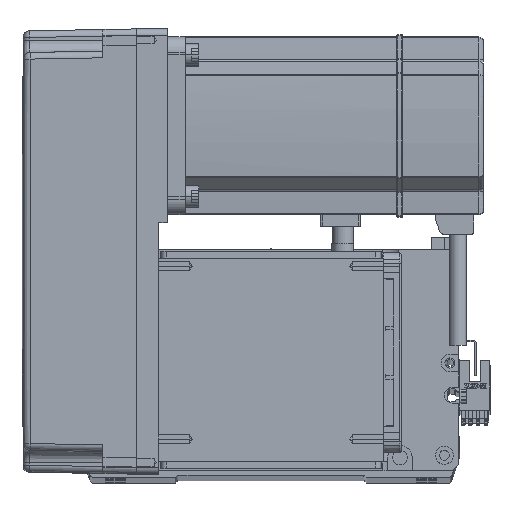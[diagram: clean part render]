
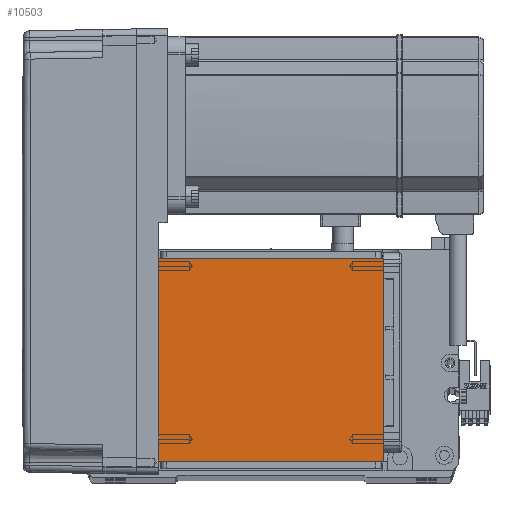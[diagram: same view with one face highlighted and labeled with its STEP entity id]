
A CAD part, top view. The second image highlights one B-rep face of the part: STEP entity #10503.
In plain terms, the highlighted planar face has unit normal (0, 0, 1).
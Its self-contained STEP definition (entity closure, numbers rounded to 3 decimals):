
#27 = DIRECTION ( 'NONE',  ( 0., 1., 0. ) ) ;
#4646 = FACE_OUTER_BOUND ( 'NONE', #28222, .T. ) ;
#5999 = ORIENTED_EDGE ( 'NONE', *, *, #51958, .F. ) ;
#6028 = CARTESIAN_POINT ( 'NONE',  ( -50.5, 122., 115. ) ) ;
#7351 = ORIENTED_EDGE ( 'NONE', *, *, #23117, .F. ) ;
#8576 = CARTESIAN_POINT ( 'NONE',  ( -70.004, 111.5, 115. ) ) ;
#8806 = VECTOR ( 'NONE', #36897, 1000. ) ;
#10238 = LINE ( 'NONE', #8576, #8806 ) ;
#10503 = ADVANCED_FACE ( 'NONE', ( #4646 ), #25130, .T. ) ;
#10510 = CARTESIAN_POINT ( 'NONE',  ( 0., 0., 115. ) ) ;
#11253 = LINE ( 'NONE', #6028, #40077 ) ;
#11603 = VERTEX_POINT ( 'NONE', #31627 ) ;
#20553 = VERTEX_POINT ( 'NONE', #44606 ) ;
#21846 = VERTEX_POINT ( 'NONE', #41031 ) ;
#21922 = VECTOR ( 'NONE', #27, 1000. ) ;
#23117 = EDGE_CURVE ( 'NONE', #11603, #25773, #10238, .T. ) ;
#23409 = AXIS2_PLACEMENT_3D ( 'NONE', #10510, #48102, #57320 ) ;
#25130 = PLANE ( 'NONE',  #23409 ) ;
#25768 = ORIENTED_EDGE ( 'NONE', *, *, #28449, .T. ) ;
#25773 = VERTEX_POINT ( 'NONE', #54524 ) ;
#26828 = ORIENTED_EDGE ( 'NONE', *, *, #51412, .T. ) ;
#28222 = EDGE_LOOP ( 'NONE', ( #7351, #26828, #5999, #25768 ) ) ;
#28449 = EDGE_CURVE ( 'NONE', #21846, #25773, #57890, .T. ) ;
#31627 = CARTESIAN_POINT ( 'NONE',  ( -50.5, 111.5, 115. ) ) ;
#36897 = DIRECTION ( 'NONE',  ( 1., 0., 0. ) ) ;
#40077 = VECTOR ( 'NONE', #52224, 1000. ) ;
#40336 = DIRECTION ( 'NONE',  ( -1., 0., 0. ) ) ;
#41031 = CARTESIAN_POINT ( 'NONE',  ( 50.5, 20., 115. ) ) ;
#44606 = CARTESIAN_POINT ( 'NONE',  ( -50.5, 20., 115. ) ) ;
#48102 = DIRECTION ( 'NONE',  ( 0., 0., 1. ) ) ;
#51412 = EDGE_CURVE ( 'NONE', #11603, #20553, #11253, .T. ) ;
#51958 = EDGE_CURVE ( 'NONE', #21846, #20553, #52897, .T. ) ;
#52224 = DIRECTION ( 'NONE',  ( 0., -1., 0. ) ) ;
#52897 = LINE ( 'NONE', #58804, #57213 ) ;
#54524 = CARTESIAN_POINT ( 'NONE',  ( 50.5, 111.5, 115. ) ) ;
#56060 = CARTESIAN_POINT ( 'NONE',  ( 50.5, 122., 115. ) ) ;
#57213 = VECTOR ( 'NONE', #40336, 1000. ) ;
#57320 = DIRECTION ( 'NONE',  ( 1., 0., 0. ) ) ;
#57890 = LINE ( 'NONE', #56060, #21922 ) ;
#58804 = CARTESIAN_POINT ( 'NONE',  ( -70.004, 20., 115. ) ) ;
